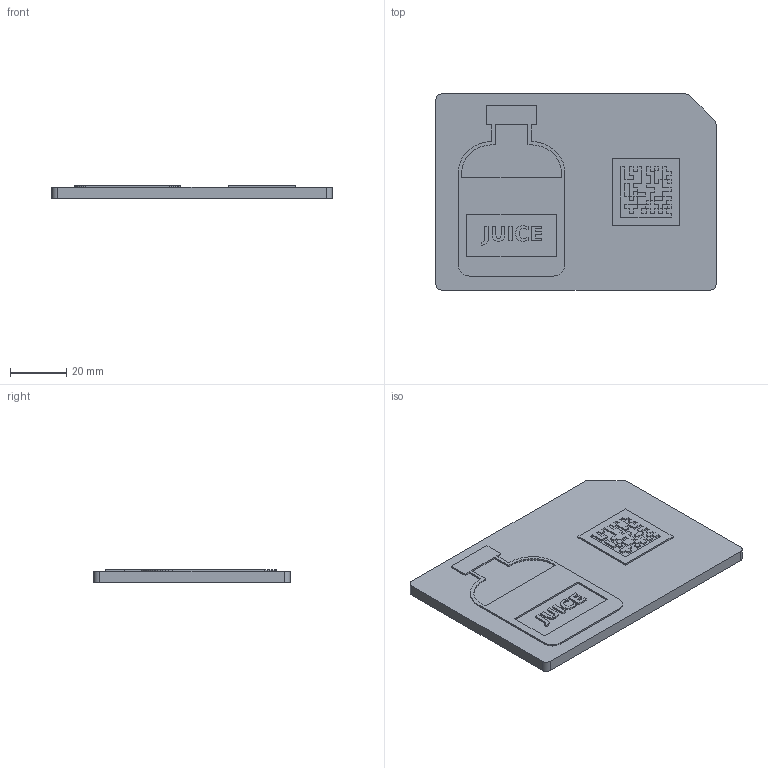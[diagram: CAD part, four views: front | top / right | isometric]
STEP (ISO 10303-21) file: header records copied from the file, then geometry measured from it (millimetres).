
FILE_DESCRIPTION(('Open CASCADE Model'),'2;1');
FILE_NAME('Open CASCADE Shape Model','2026-10-14T18:10:03',('Author'),( 'Open CASCADE'),'Open CASCADE STEP processor 7.9','Open CASCADE 7.9' ,'Unknown');
FILE_SCHEMA(('AUTOMOTIVE_DESIGN { 1 0 10303 214 1 1 1 1 }'));
Length unit declared in the file: millimetre
Products named in the file (3): SN-4831; SN-4831_base_dark; SN-4831_features_red
Assembly tree (2 placements, depth 2):
  SN-4831
    SN-4831_base_dark
    SN-4831_features_red
Bounding box: 100 x 70 x 4.6 mm (x, y, z)
Volume: 28682 mm3; surface area: 20061.3 mm2
Topology: 8 solids, 8 shells, 682 faces, 1944 edges, 1296 vertices
Faces by surface type: plane 677, cylinder 5
Entity records: 46514 total; most frequent: CARTESIAN_POINT 8463, DIRECTION 6572, LINE 5174, VECTOR 5174, ORIENTED_EDGE 3888, PCURVE 3888, DEFINITIONAL_REPRESENTATION 3888, EDGE_CURVE 1944
